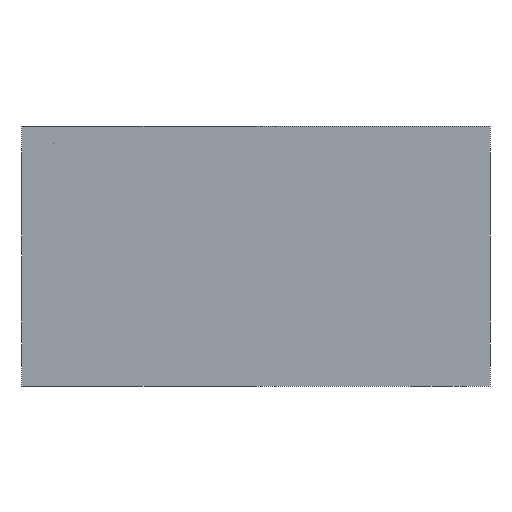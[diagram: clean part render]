
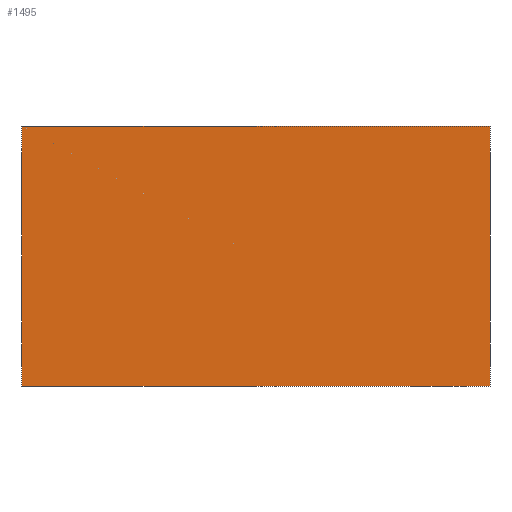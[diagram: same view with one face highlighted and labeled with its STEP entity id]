
A CAD part, left-side view. The second image highlights one B-rep face of the part: STEP entity #1495.
In plain terms, the highlighted planar face has unit normal (-1, 0, 0).
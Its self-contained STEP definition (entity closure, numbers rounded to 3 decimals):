
#101=LINE('',#2413,#183);
#108=LINE('',#2438,#190);
#109=LINE('',#2439,#191);
#110=LINE('',#2440,#192);
#183=VECTOR('',#1900,10.);
#190=VECTOR('',#1925,10.);
#191=VECTOR('',#1926,10.);
#192=VECTOR('',#1927,10.);
#316=FACE_OUTER_BOUND('',#403,.T.);
#403=EDGE_LOOP('',(#1066,#1067,#1068,#1069));
#610=VERTEX_POINT('',#2410);
#611=VERTEX_POINT('',#2412);
#619=VERTEX_POINT('',#2436);
#620=VERTEX_POINT('',#2437);
#783=EDGE_CURVE('',#611,#610,#101,.T.);
#795=EDGE_CURVE('',#619,#620,#108,.T.);
#796=EDGE_CURVE('',#611,#620,#109,.T.);
#797=EDGE_CURVE('',#619,#610,#110,.T.);
#1066=ORIENTED_EDGE('',*,*,#795,.T.);
#1067=ORIENTED_EDGE('',*,*,#796,.F.);
#1068=ORIENTED_EDGE('',*,*,#783,.T.);
#1069=ORIENTED_EDGE('',*,*,#797,.F.);
#1371=PLANE('',#1650);
#1495=ADVANCED_FACE('',(#316),#1371,.T.);
#1650=AXIS2_PLACEMENT_3D('',#2435,#1923,#1924);
#1900=DIRECTION('',(0.,-1.,0.));
#1923=DIRECTION('center_axis',(-1.,0.,0.));
#1924=DIRECTION('ref_axis',(0.,0.,1.));
#1925=DIRECTION('',(0.,1.,0.));
#1926=DIRECTION('',(0.,0.,1.));
#1927=DIRECTION('',(0.,0.,-1.));
#2410=CARTESIAN_POINT('',(-70.,-45.,-25.));
#2412=CARTESIAN_POINT('',(-70.,45.,-25.));
#2413=CARTESIAN_POINT('',(-70.,45.,-25.));
#2435=CARTESIAN_POINT('Origin',(-70.,-45.,0.));
#2436=CARTESIAN_POINT('',(-70.,-45.,25.));
#2437=CARTESIAN_POINT('',(-70.,45.,25.));
#2438=CARTESIAN_POINT('',(-70.,45.,25.));
#2439=CARTESIAN_POINT('',(-70.,45.,0.));
#2440=CARTESIAN_POINT('',(-70.,-45.,0.));
